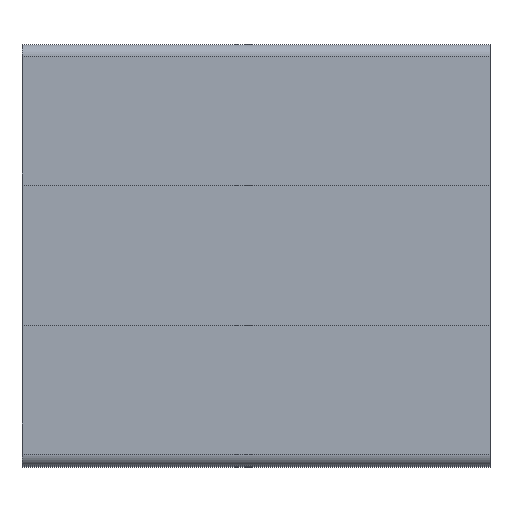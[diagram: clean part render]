
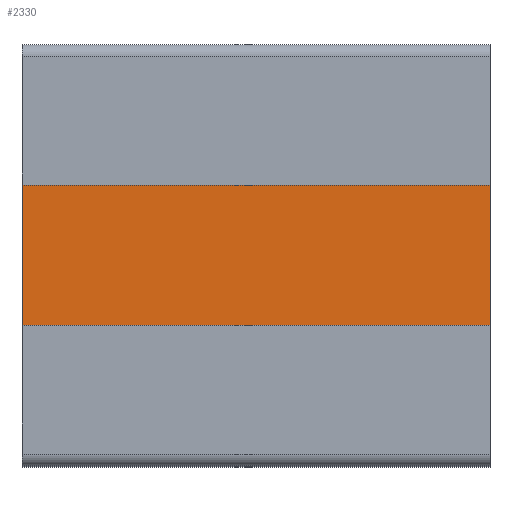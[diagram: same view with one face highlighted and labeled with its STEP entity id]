
A CAD part, top view. The second image highlights one B-rep face of the part: STEP entity #2330.
In plain terms, the highlighted planar face has unit normal (0, 0, 1).
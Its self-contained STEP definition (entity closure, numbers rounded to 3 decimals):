
#439 = CARTESIAN_POINT ( 'NONE',  ( -40.816, 28.311, 163. ) ) ;
#559 = ORIENTED_EDGE ( 'NONE', *, *, #4650, .F. ) ;
#603 = CARTESIAN_POINT ( 'NONE',  ( -40.816, 81.311, 163. ) ) ;
#1591 = CARTESIAN_POINT ( 'NONE',  ( 59.184, 81.311, 163. ) ) ;
#2002 = VECTOR ( 'NONE', #3353, 1000. ) ;
#2206 = LINE ( 'NONE', #4003, #2002 ) ;
#2261 = ORIENTED_EDGE ( 'NONE', *, *, #3700, .T. ) ;
#2274 = EDGE_LOOP ( 'NONE', ( #2261, #559, #3168, #3983 ) ) ;
#2330 = ADVANCED_FACE ( 'NONE', ( #5650 ), #2772, .F. ) ;
#2501 = DIRECTION ( 'NONE',  ( -1., 0., 0. ) ) ;
#2661 = DIRECTION ( 'NONE',  ( 0., 0., -1. ) ) ;
#2772 = PLANE ( 'NONE',  #5906 ) ;
#3168 = ORIENTED_EDGE ( 'NONE', *, *, #5585, .F. ) ;
#3344 = VECTOR ( 'NONE', #4142, 1000. ) ;
#3353 = DIRECTION ( 'NONE',  ( 0., -1., 0. ) ) ;
#3502 = CARTESIAN_POINT ( 'NONE',  ( 59.184, 81.311, 163. ) ) ;
#3686 = VERTEX_POINT ( 'NONE', #1591 ) ;
#3700 = EDGE_CURVE ( 'NONE', #4808, #5342, #4975, .T. ) ;
#3983 = ORIENTED_EDGE ( 'NONE', *, *, #4788, .T. ) ;
#4003 = CARTESIAN_POINT ( 'NONE',  ( 59.184, 81.311, 163. ) ) ;
#4142 = DIRECTION ( 'NONE',  ( -1., 0., 0. ) ) ;
#4642 = CARTESIAN_POINT ( 'NONE',  ( 59.184, 81.311, 163. ) ) ;
#4650 = EDGE_CURVE ( 'NONE', #5441, #5342, #6784, .T. ) ;
#4788 = EDGE_CURVE ( 'NONE', #3686, #4808, #8163, .T. ) ;
#4808 = VERTEX_POINT ( 'NONE', #603 ) ;
#4975 = LINE ( 'NONE', #6182, #6799 ) ;
#5132 = CARTESIAN_POINT ( 'NONE',  ( 59.184, 28.311, 163. ) ) ;
#5342 = VERTEX_POINT ( 'NONE', #439 ) ;
#5441 = VERTEX_POINT ( 'NONE', #5132 ) ;
#5585 = EDGE_CURVE ( 'NONE', #3686, #5441, #2206, .T. ) ;
#5650 = FACE_OUTER_BOUND ( 'NONE', #2274, .T. ) ;
#5906 = AXIS2_PLACEMENT_3D ( 'NONE', #4642, #2661, #6532 ) ;
#6182 = CARTESIAN_POINT ( 'NONE',  ( -40.816, 81.311, 163. ) ) ;
#6532 = DIRECTION ( 'NONE',  ( -1., 0., 0. ) ) ;
#6727 = DIRECTION ( 'NONE',  ( 0., -1., 0. ) ) ;
#6784 = LINE ( 'NONE', #7353, #3344 ) ;
#6799 = VECTOR ( 'NONE', #6727, 1000. ) ;
#7353 = CARTESIAN_POINT ( 'NONE',  ( 59.184, 28.311, 163. ) ) ;
#8163 = LINE ( 'NONE', #3502, #8261 ) ;
#8261 = VECTOR ( 'NONE', #2501, 1000. ) ;
